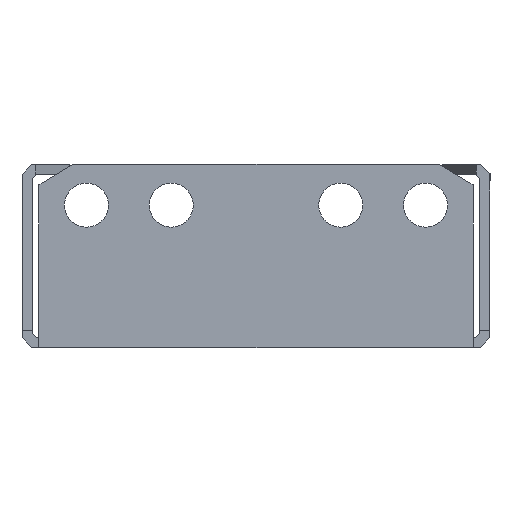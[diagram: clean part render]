
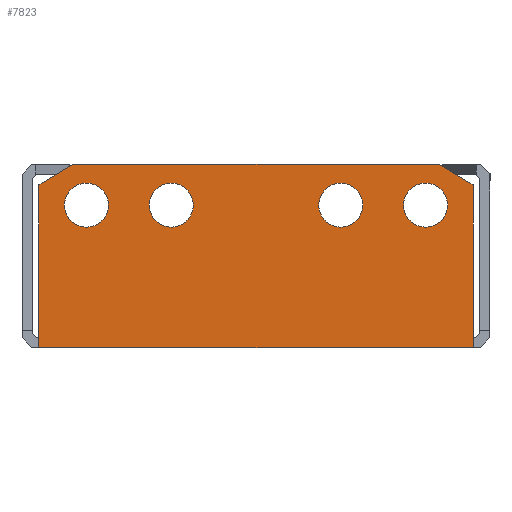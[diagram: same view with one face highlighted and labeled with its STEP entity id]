
A CAD part, left-side view. The second image highlights one B-rep face of the part: STEP entity #7823.
In plain terms, the highlighted planar face has unit normal (-1, 0, 0).
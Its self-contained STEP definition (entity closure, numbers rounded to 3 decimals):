
#96 = CARTESIAN_POINT ( 'NONE',  ( -153., -12.5, 19.5 ) ) ;
#206 = AXIS2_PLACEMENT_3D ( 'NONE', #16054, #13179, #2500 ) ;
#221 = ORIENTED_EDGE ( 'NONE', *, *, #12895, .F. ) ;
#331 = DIRECTION ( 'NONE',  ( 0., 0., 1. ) ) ;
#552 = EDGE_CURVE ( 'NONE', #12350, #15095, #9175, .T. ) ;
#593 = ORIENTED_EDGE ( 'NONE', *, *, #5423, .F. ) ;
#736 = VERTEX_POINT ( 'NONE', #13921 ) ;
#906 = FACE_OUTER_BOUND ( 'NONE', #18172, .T. ) ;
#1395 = VERTEX_POINT ( 'NONE', #14866 ) ;
#1574 = ORIENTED_EDGE ( 'NONE', *, *, #2874, .T. ) ;
#1588 = ORIENTED_EDGE ( 'NONE', *, *, #18480, .T. ) ;
#1672 = ORIENTED_EDGE ( 'NONE', *, *, #4550, .F. ) ;
#1795 = CIRCLE ( 'NONE', #206, 3.25 ) ;
#1800 = VECTOR ( 'NONE', #11904, 1000. ) ;
#1924 = EDGE_CURVE ( 'NONE', #17434, #16639, #15064, .T. ) ;
#1951 = ORIENTED_EDGE ( 'NONE', *, *, #15934, .T. ) ;
#2426 = CARTESIAN_POINT ( 'NONE',  ( -153., 12.5, 22.75 ) ) ;
#2491 = FACE_BOUND ( 'NONE', #3454, .T. ) ;
#2500 = DIRECTION ( 'NONE',  ( 0., 0., 1. ) ) ;
#2761 = DIRECTION ( 'NONE',  ( 0., 0., -1. ) ) ;
#2874 = EDGE_CURVE ( 'NONE', #14520, #4364, #7026, .T. ) ;
#2902 = CARTESIAN_POINT ( 'NONE',  ( -153., 25., 19.5 ) ) ;
#2989 = LINE ( 'NONE', #5861, #1800 ) ;
#3115 = AXIS2_PLACEMENT_3D ( 'NONE', #16951, #13787, #331 ) ;
#3271 = DIRECTION ( 'NONE',  ( 0., 0., 1. ) ) ;
#3306 = PLANE ( 'NONE',  #5837 ) ;
#3454 = EDGE_LOOP ( 'NONE', ( #593, #8018 ) ) ;
#3492 = CARTESIAN_POINT ( 'NONE',  ( -153., -32., 1. ) ) ;
#3509 = FACE_BOUND ( 'NONE', #11038, .T. ) ;
#3552 = CARTESIAN_POINT ( 'NONE',  ( -153., 25., 16.25 ) ) ;
#3651 = VECTOR ( 'NONE', #14779, 1000. ) ;
#4225 = CARTESIAN_POINT ( 'NONE',  ( -153., -25., 19.5 ) ) ;
#4364 = VERTEX_POINT ( 'NONE', #10337 ) ;
#4376 = VERTEX_POINT ( 'NONE', #13500 ) ;
#4545 = LINE ( 'NONE', #7413, #5902 ) ;
#4550 = EDGE_CURVE ( 'NONE', #1395, #13626, #14804, .T. ) ;
#4602 = VECTOR ( 'NONE', #13771, 1000. ) ;
#4698 = ORIENTED_EDGE ( 'NONE', *, *, #12980, .F. ) ;
#4753 = CARTESIAN_POINT ( 'NONE',  ( -153., -32., -1.5 ) ) ;
#4996 = DIRECTION ( 'NONE',  ( -1., 0., 0. ) ) ;
#5126 = AXIS2_PLACEMENT_3D ( 'NONE', #9965, #17193, #14420 ) ;
#5350 = VERTEX_POINT ( 'NONE', #18384 ) ;
#5360 = CIRCLE ( 'NONE', #17039, 3.25 ) ;
#5423 = EDGE_CURVE ( 'NONE', #16639, #17434, #16177, .T. ) ;
#5548 = DIRECTION ( 'NONE',  ( 0., 0., 1. ) ) ;
#5705 = CARTESIAN_POINT ( 'NONE',  ( -153., -12.5, 19.5 ) ) ;
#5837 = AXIS2_PLACEMENT_3D ( 'NONE', #9335, #4996, #18643 ) ;
#5859 = CIRCLE ( 'NONE', #15710, 3.25 ) ;
#5861 = CARTESIAN_POINT ( 'NONE',  ( -153., 32., 0. ) ) ;
#5902 = VECTOR ( 'NONE', #18305, 1000. ) ;
#6609 = VERTEX_POINT ( 'NONE', #3552 ) ;
#6664 = VERTEX_POINT ( 'NONE', #12270 ) ;
#6916 = CARTESIAN_POINT ( 'NONE',  ( -153., 12.5, 16.25 ) ) ;
#7026 = LINE ( 'NONE', #19093, #13291 ) ;
#7243 = DIRECTION ( 'NONE',  ( 0., 0., 1. ) ) ;
#7413 = CARTESIAN_POINT ( 'NONE',  ( -153., -32., 22.5 ) ) ;
#7823 = ADVANCED_FACE ( 'NONE', ( #15387, #3509, #17507, #2491, #906 ), #3306, .T. ) ;
#7964 = CARTESIAN_POINT ( 'NONE',  ( -153., 0., -1.5 ) ) ;
#8018 = ORIENTED_EDGE ( 'NONE', *, *, #1924, .F. ) ;
#8185 = EDGE_CURVE ( 'NONE', #736, #5350, #5360, .T. ) ;
#8272 = CARTESIAN_POINT ( 'NONE',  ( -153., -25., 22.75 ) ) ;
#8647 = ORIENTED_EDGE ( 'NONE', *, *, #13040, .T. ) ;
#8736 = CARTESIAN_POINT ( 'NONE',  ( -153., -32., 0. ) ) ;
#8948 = DIRECTION ( 'NONE',  ( -1., 0., 0. ) ) ;
#9175 = LINE ( 'NONE', #16700, #13067 ) ;
#9310 = CARTESIAN_POINT ( 'NONE',  ( -153., 32., 22.5 ) ) ;
#9335 = CARTESIAN_POINT ( 'NONE',  ( -153., 0., 0. ) ) ;
#9373 = AXIS2_PLACEMENT_3D ( 'NONE', #4225, #11954, #13536 ) ;
#9552 = DIRECTION ( 'NONE',  ( 0., -1., 0. ) ) ;
#9759 = ORIENTED_EDGE ( 'NONE', *, *, #12085, .F. ) ;
#9965 = CARTESIAN_POINT ( 'NONE',  ( -153., 12.5, 19.5 ) ) ;
#9985 = EDGE_LOOP ( 'NONE', ( #221, #12865 ) ) ;
#10280 = CARTESIAN_POINT ( 'NONE',  ( -153., 27., 25.5 ) ) ;
#10337 = CARTESIAN_POINT ( 'NONE',  ( -153., -32., 22.5 ) ) ;
#10392 = DIRECTION ( 'NONE',  ( 0., 1., 0. ) ) ;
#10836 = LINE ( 'NONE', #7964, #14397 ) ;
#11038 = EDGE_LOOP ( 'NONE', ( #13103, #15172 ) ) ;
#11500 = LINE ( 'NONE', #8736, #3651 ) ;
#11904 = DIRECTION ( 'NONE',  ( 0., 0., -1. ) ) ;
#11954 = DIRECTION ( 'NONE',  ( -1., 0., 0. ) ) ;
#12085 = EDGE_CURVE ( 'NONE', #13626, #1395, #15380, .T. ) ;
#12270 = CARTESIAN_POINT ( 'NONE',  ( -153., 25., 22.75 ) ) ;
#12350 = VERTEX_POINT ( 'NONE', #15803 ) ;
#12639 = EDGE_LOOP ( 'NONE', ( #1672, #9759 ) ) ;
#12865 = ORIENTED_EDGE ( 'NONE', *, *, #14699, .F. ) ;
#12895 = EDGE_CURVE ( 'NONE', #6609, #6664, #5859, .T. ) ;
#12980 = EDGE_CURVE ( 'NONE', #14520, #15184, #11500, .T. ) ;
#13040 = EDGE_CURVE ( 'NONE', #4376, #18603, #19524, .T. ) ;
#13067 = VECTOR ( 'NONE', #2761, 1000. ) ;
#13103 = ORIENTED_EDGE ( 'NONE', *, *, #13799, .F. ) ;
#13179 = DIRECTION ( 'NONE',  ( -1., 0., 0. ) ) ;
#13265 = CARTESIAN_POINT ( 'NONE',  ( -153., 32., -1.5 ) ) ;
#13291 = VECTOR ( 'NONE', #5548, 1000. ) ;
#13407 = DIRECTION ( 'NONE',  ( 0., 0., 1. ) ) ;
#13500 = CARTESIAN_POINT ( 'NONE',  ( -153., 27., 25.5 ) ) ;
#13536 = DIRECTION ( 'NONE',  ( 0., 0., 1. ) ) ;
#13626 = VERTEX_POINT ( 'NONE', #8272 ) ;
#13771 = DIRECTION ( 'NONE',  ( 0., 0.857, -0.514 ) ) ;
#13787 = DIRECTION ( 'NONE',  ( -1., 0., 0. ) ) ;
#13799 = EDGE_CURVE ( 'NONE', #5350, #736, #19168, .T. ) ;
#13921 = CARTESIAN_POINT ( 'NONE',  ( -153., -12.5, 22.75 ) ) ;
#14397 = VECTOR ( 'NONE', #9552, 1000. ) ;
#14420 = DIRECTION ( 'NONE',  ( 0., 0., 1. ) ) ;
#14520 = VERTEX_POINT ( 'NONE', #3492 ) ;
#14699 = EDGE_CURVE ( 'NONE', #6664, #6609, #1795, .T. ) ;
#14733 = EDGE_CURVE ( 'NONE', #4364, #15702, #4545, .T. ) ;
#14779 = DIRECTION ( 'NONE',  ( 0., 0., -1. ) ) ;
#14804 = CIRCLE ( 'NONE', #3115, 3.25 ) ;
#14866 = CARTESIAN_POINT ( 'NONE',  ( -153., -25., 16.25 ) ) ;
#15064 = CIRCLE ( 'NONE', #17586, 3.25 ) ;
#15095 = VERTEX_POINT ( 'NONE', #13265 ) ;
#15172 = ORIENTED_EDGE ( 'NONE', *, *, #8185, .F. ) ;
#15184 = VERTEX_POINT ( 'NONE', #4753 ) ;
#15221 = CARTESIAN_POINT ( 'NONE',  ( -153., -27., 25.5 ) ) ;
#15380 = CIRCLE ( 'NONE', #9373, 3.25 ) ;
#15387 = FACE_BOUND ( 'NONE', #9985, .T. ) ;
#15460 = ORIENTED_EDGE ( 'NONE', *, *, #19163, .T. ) ;
#15702 = VERTEX_POINT ( 'NONE', #15221 ) ;
#15706 = AXIS2_PLACEMENT_3D ( 'NONE', #5705, #8948, #13407 ) ;
#15710 = AXIS2_PLACEMENT_3D ( 'NONE', #2902, #17642, #7243 ) ;
#15803 = CARTESIAN_POINT ( 'NONE',  ( -153., 32., 1. ) ) ;
#15922 = CARTESIAN_POINT ( 'NONE',  ( -153., 12.5, 19.5 ) ) ;
#15934 = EDGE_CURVE ( 'NONE', #18603, #12350, #2989, .T. ) ;
#16054 = CARTESIAN_POINT ( 'NONE',  ( -153., 25., 19.5 ) ) ;
#16177 = CIRCLE ( 'NONE', #5126, 3.25 ) ;
#16375 = ORIENTED_EDGE ( 'NONE', *, *, #14733, .T. ) ;
#16639 = VERTEX_POINT ( 'NONE', #6916 ) ;
#16700 = CARTESIAN_POINT ( 'NONE',  ( -153., 32., 1. ) ) ;
#16820 = DIRECTION ( 'NONE',  ( -1., 0., 0. ) ) ;
#16951 = CARTESIAN_POINT ( 'NONE',  ( -153., -25., 19.5 ) ) ;
#17039 = AXIS2_PLACEMENT_3D ( 'NONE', #96, #16820, #3271 ) ;
#17193 = DIRECTION ( 'NONE',  ( -1., 0., 0. ) ) ;
#17434 = VERTEX_POINT ( 'NONE', #2426 ) ;
#17507 = FACE_BOUND ( 'NONE', #12639, .T. ) ;
#17586 = AXIS2_PLACEMENT_3D ( 'NONE', #15922, #18987, #18897 ) ;
#17594 = VECTOR ( 'NONE', #10392, 1000. ) ;
#17642 = DIRECTION ( 'NONE',  ( -1., 0., 0. ) ) ;
#18078 = ORIENTED_EDGE ( 'NONE', *, *, #552, .T. ) ;
#18172 = EDGE_LOOP ( 'NONE', ( #1951, #18078, #1588, #4698, #1574, #16375, #15460, #8647 ) ) ;
#18182 = LINE ( 'NONE', #10280, #17594 ) ;
#18261 = CARTESIAN_POINT ( 'NONE',  ( -153., 32., 22.5 ) ) ;
#18305 = DIRECTION ( 'NONE',  ( 0., 0.857, 0.514 ) ) ;
#18384 = CARTESIAN_POINT ( 'NONE',  ( -153., -12.5, 16.25 ) ) ;
#18480 = EDGE_CURVE ( 'NONE', #15095, #15184, #10836, .T. ) ;
#18603 = VERTEX_POINT ( 'NONE', #18261 ) ;
#18643 = DIRECTION ( 'NONE',  ( 0., 0., 1. ) ) ;
#18897 = DIRECTION ( 'NONE',  ( 0., 0., 1. ) ) ;
#18987 = DIRECTION ( 'NONE',  ( -1., 0., 0. ) ) ;
#19093 = CARTESIAN_POINT ( 'NONE',  ( -153., -32., 22.5 ) ) ;
#19163 = EDGE_CURVE ( 'NONE', #15702, #4376, #18182, .T. ) ;
#19168 = CIRCLE ( 'NONE', #15706, 3.25 ) ;
#19524 = LINE ( 'NONE', #9310, #4602 ) ;
